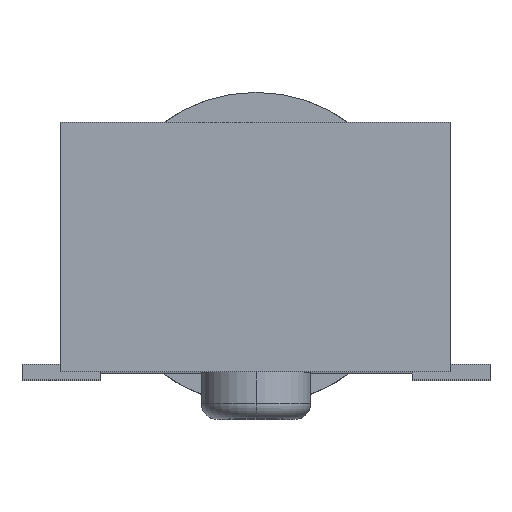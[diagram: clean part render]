
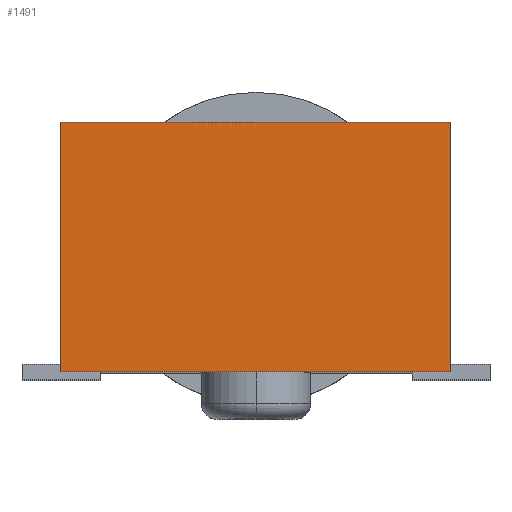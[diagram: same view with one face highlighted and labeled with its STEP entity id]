
A CAD part, top view. The second image highlights one B-rep face of the part: STEP entity #1491.
In plain terms, the highlighted planar face has unit normal (0, 0, 1).
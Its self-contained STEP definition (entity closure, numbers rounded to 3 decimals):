
#110=DIRECTION('',(1.,0.,0.));
#111=VECTOR('',#110,5.);
#112=CARTESIAN_POINT('',(-2.5,0.,0.));
#113=LINE('',#112,#111);
#182=DIRECTION('',(0.,1.,0.));
#183=VECTOR('',#182,3.2);
#184=CARTESIAN_POINT('',(2.5,0.,0.));
#185=LINE('',#184,#183);
#494=DIRECTION('',(1.,0.,0.));
#495=VECTOR('',#494,5.);
#496=CARTESIAN_POINT('',(-2.5,3.2,0.));
#497=LINE('',#496,#495);
#507=DIRECTION('',(0.,1.,0.));
#508=VECTOR('',#507,3.2);
#509=CARTESIAN_POINT('',(-2.5,0.,0.));
#510=LINE('',#509,#508);
#668=CARTESIAN_POINT('',(-2.5,0.,0.));
#669=CARTESIAN_POINT('',(2.5,0.,0.));
#670=VERTEX_POINT('',#668);
#671=VERTEX_POINT('',#669);
#672=CARTESIAN_POINT('',(-2.5,3.2,0.));
#673=CARTESIAN_POINT('',(2.5,3.2,0.));
#674=VERTEX_POINT('',#672);
#675=VERTEX_POINT('',#673);
#1480=CARTESIAN_POINT('',(-2.5,0.,0.));
#1481=DIRECTION('',(0.,0.,1.));
#1482=DIRECTION('',(1.,0.,0.));
#1483=AXIS2_PLACEMENT_3D('',#1480,#1481,#1482);
#1484=PLANE('',#1483);
#1485=ORIENTED_EDGE('',*,*,#935,.F.);
#1486=ORIENTED_EDGE('',*,*,#1378,.T.);
#1487=ORIENTED_EDGE('',*,*,#1464,.T.);
#1488=ORIENTED_EDGE('',*,*,#1012,.F.);
#1489=EDGE_LOOP('',(#1485,#1486,#1487,#1488));
#1490=FACE_OUTER_BOUND('',#1489,.F.);
#1491=ADVANCED_FACE('',(#1490),#1484,.T.);
#935=EDGE_CURVE('',#670,#671,#113,.T.);
#1012=EDGE_CURVE('',#671,#675,#185,.T.);
#1378=EDGE_CURVE('',#670,#674,#510,.T.);
#1464=EDGE_CURVE('',#674,#675,#497,.T.);
